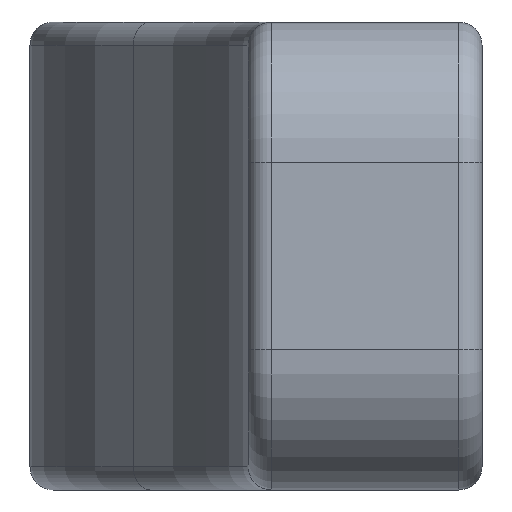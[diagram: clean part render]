
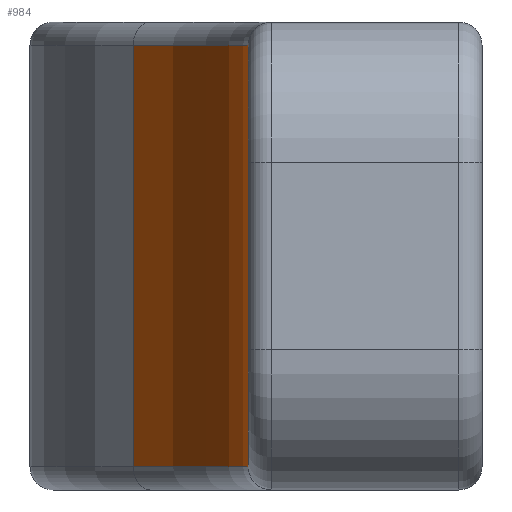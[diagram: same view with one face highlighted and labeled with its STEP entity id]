
A CAD part, left-side view. The second image highlights one B-rep face of the part: STEP entity #984.
In plain terms, the highlighted cylindrical face has radius 10 mm (diameter 20 mm), a partial arc.
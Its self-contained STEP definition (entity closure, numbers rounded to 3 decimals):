
#80=FACE_OUTER_BOUND('',#147,.T.);
#147=EDGE_LOOP('',(#746,#747,#748,#749));
#216=LINE('',#1724,#271);
#217=LINE('',#1730,#272);
#271=VECTOR('',#1374,10.);
#272=VECTOR('',#1381,10.);
#308=CIRCLE('',#1048,10.);
#320=CIRCLE('',#1066,10.);
#399=VERTEX_POINT('',#1583);
#401=VERTEX_POINT('',#1589);
#411=VERTEX_POINT('',#1619);
#413=VERTEX_POINT('',#1625);
#490=EDGE_CURVE('',#399,#401,#308,.T.);
#508=EDGE_CURVE('',#411,#413,#320,.T.);
#556=EDGE_CURVE('',#411,#401,#216,.T.);
#559=EDGE_CURVE('',#399,#413,#217,.T.);
#746=ORIENTED_EDGE('',*,*,#508,.F.);
#747=ORIENTED_EDGE('',*,*,#556,.T.);
#748=ORIENTED_EDGE('',*,*,#490,.F.);
#749=ORIENTED_EDGE('',*,*,#559,.T.);
#938=CYLINDRICAL_SURFACE('',#1115,10.);
#984=ADVANCED_FACE('',(#80),#938,.F.);
#1048=AXIS2_PLACEMENT_3D('',#1593,#1221,#1222);
#1066=AXIS2_PLACEMENT_3D('',#1629,#1263,#1264);
#1115=AXIS2_PLACEMENT_3D('',#1729,#1379,#1380);
#1221=DIRECTION('center_axis',(0.,0.,-1.));
#1222=DIRECTION('ref_axis',(0.351,-0.937,0.));
#1263=DIRECTION('center_axis',(0.,0.,1.));
#1264=DIRECTION('ref_axis',(0.351,-0.937,0.));
#1374=DIRECTION('',(0.,0.,1.));
#1379=DIRECTION('center_axis',(0.,0.,1.));
#1380=DIRECTION('ref_axis',(0.351,-0.937,0.));
#1381=DIRECTION('',(0.,0.,-1.));
#1583=CARTESIAN_POINT('',(51.98,7.458,9.5));
#1589=CARTESIAN_POINT('',(45.414,5.,9.5));
#1593=CARTESIAN_POINT('Origin',(45.414,15.,9.5));
#1619=CARTESIAN_POINT('',(45.414,5.,0.5));
#1625=CARTESIAN_POINT('',(51.98,7.458,0.5));
#1629=CARTESIAN_POINT('Origin',(45.414,15.,0.5));
#1724=CARTESIAN_POINT('',(45.414,5.,0.));
#1729=CARTESIAN_POINT('Origin',(45.414,15.,0.));
#1730=CARTESIAN_POINT('',(51.98,7.458,0.));
